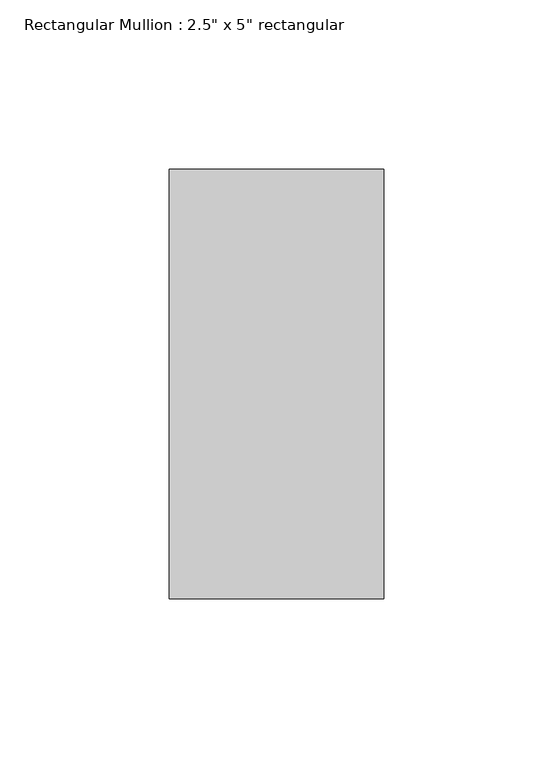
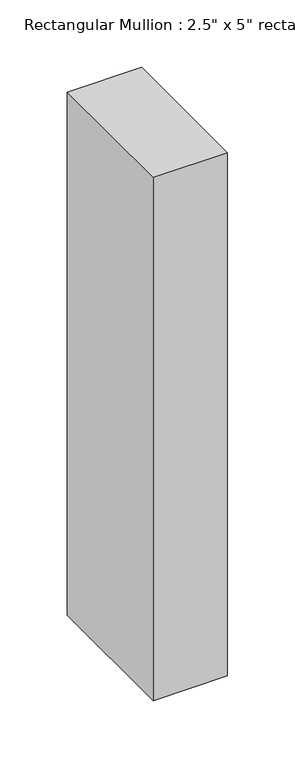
"""IFC4 building model written with IfcOpenShell, lengths in millimetres: member geometry."""

from ifc_helpers import new_model, si_unit, frame, origin, place, context, project, spatial, polyline, outline, extrude, source, transform, mapped, element, save


def member_7eb850c3(model_context):
    return source(origin(), model_context, "Body", "SweptSolid", [
        extrude(outline(polyline([(0.0, 63.5), (0.0, -63.5), (-63.5, -63.5), (-63.5, 63.5), (0.0, 63.5)])), frame((0.0, 0.0, -473.777684), z_axis=(0.0, 0.0, 1.0), x_axis=(1.0, 0.0, 0.0)), (0.0, 0.0, 1.0), 473.777684),
    ])


if __name__ == "__main__":
    model = new_model("IFC4")
    model_context = context("Model", 3, world=origin())
    ifc_project = project(units=[si_unit("LENGTHUNIT", "METRE", prefix="MILLI")], contexts=[model_context])
    site = spatial("IfcSite", under=ifc_project)
    building = spatial("IfcBuilding", under=site)
    placement = place(None, origin())
    member_shape = member_7eb850c3(model_context)
    element("IfcMember", 1, ObjectType="Rectangular Mullion : 2.5\" x 5\" rectangular", at=placement, inside=building, context=model_context, shape_type="MappedRepresentation", body=[
        mapped(member_shape, transform((0.0, 0.0, 0.0), x_axis=(1.0, 0.0, 0.0), y_axis=(0.0, 1.0, 0.0), z_axis=(0.0, 0.0, 1.0))),
    ])
    save(model, "model.ifc")
